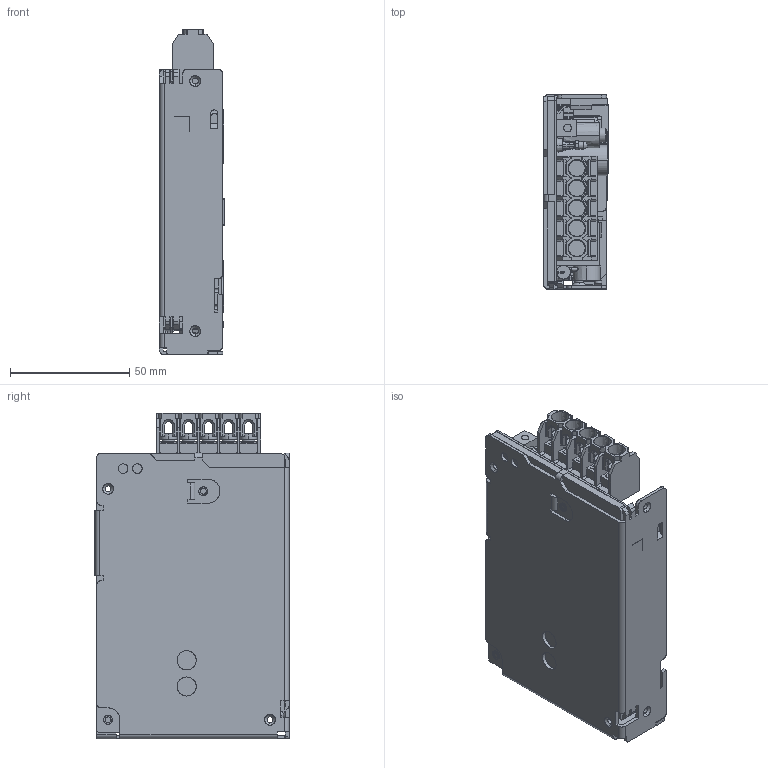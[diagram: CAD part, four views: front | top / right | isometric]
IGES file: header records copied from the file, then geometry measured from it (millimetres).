
Start section: SolidWorks IGES file using analytic representation for surfaces
Global section: file name: C:\hws50a_outline.IGS; native system: SolidWorks 2013; preprocessor: SolidWorks 2013; author: a008167; date: 140725.155345; units: millimetre
Bounding box: 27.3 x 81.5 x 136.8 mm (x, y, z)
Surface area: 69575.6 mm2 (no closed solid volume)
Topology: 0 solids, 0 shells, 2059 faces, 21490 edges, 21476 vertices
Faces by surface type: bspline 1335, revolution 724
